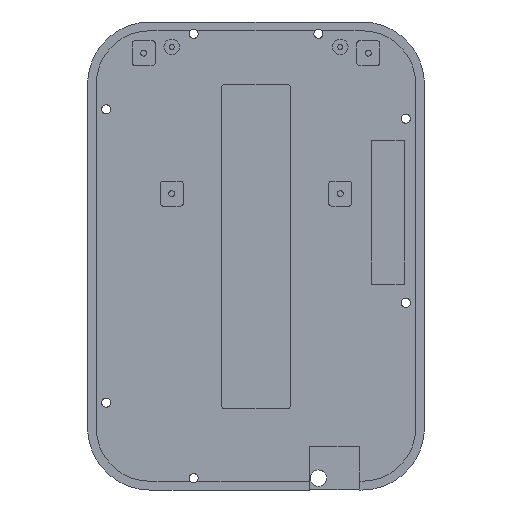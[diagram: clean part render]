
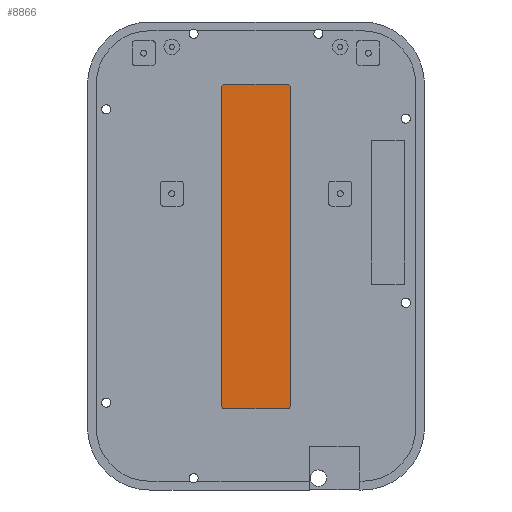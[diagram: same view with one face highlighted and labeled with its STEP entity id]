
A CAD part, front view. The second image highlights one B-rep face of the part: STEP entity #8866.
In plain terms, the highlighted planar face has unit normal (0, -1, 0).
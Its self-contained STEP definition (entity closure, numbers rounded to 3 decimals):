
#3650 = PLANE('',#3651);
#3651 = AXIS2_PLACEMENT_3D('',#3652,#3653,#3654);
#3652 = CARTESIAN_POINT('',(-11.,0.9,-48.));
#3653 = DIRECTION('',(-1.,0.,0.));
#3654 = DIRECTION('',(0.,0.,1.));
#3683 = CYLINDRICAL_SURFACE('',#3684,1.);
#3684 = AXIS2_PLACEMENT_3D('',#3685,#3686,#3687);
#3685 = CARTESIAN_POINT('',(-10.,0.9,54.));
#3686 = DIRECTION('',(0.,1.,0.));
#3687 = DIRECTION('',(1.,0.,0.));
#3711 = PLANE('',#3712);
#3712 = AXIS2_PLACEMENT_3D('',#3713,#3714,#3715);
#3713 = CARTESIAN_POINT('',(-10.,0.9,55.));
#3714 = DIRECTION('',(0.,0.,1.));
#3715 = DIRECTION('',(1.,0.,0.));
#3744 = CYLINDRICAL_SURFACE('',#3745,1.);
#3745 = AXIS2_PLACEMENT_3D('',#3746,#3747,#3748);
#3746 = CARTESIAN_POINT('',(10.,0.9,54.));
#3747 = DIRECTION('',(0.,1.,0.));
#3748 = DIRECTION('',(1.,0.,0.));
#3772 = PLANE('',#3773);
#3773 = AXIS2_PLACEMENT_3D('',#3774,#3775,#3776);
#3774 = CARTESIAN_POINT('',(11.,0.9,-48.));
#3775 = DIRECTION('',(-1.,0.,0.));
#3776 = DIRECTION('',(0.,0.,1.));
#3805 = CYLINDRICAL_SURFACE('',#3806,1.);
#3806 = AXIS2_PLACEMENT_3D('',#3807,#3808,#3809);
#3807 = CARTESIAN_POINT('',(10.,0.9,-48.));
#3808 = DIRECTION('',(0.,1.,0.));
#3809 = DIRECTION('',(1.,0.,0.));
#3833 = PLANE('',#3834);
#3834 = AXIS2_PLACEMENT_3D('',#3835,#3836,#3837);
#3835 = CARTESIAN_POINT('',(-10.,0.9,-49.));
#3836 = DIRECTION('',(0.,0.,1.));
#3837 = DIRECTION('',(1.,0.,0.));
#3864 = CYLINDRICAL_SURFACE('',#3865,1.);
#3865 = AXIS2_PLACEMENT_3D('',#3866,#3867,#3868);
#3866 = CARTESIAN_POINT('',(-10.,0.9,-48.));
#3867 = DIRECTION('',(0.,1.,0.));
#3868 = DIRECTION('',(1.,0.,0.));
#5952 = EDGE_CURVE('',#5953,#5955,#5957,.T.);
#5953 = VERTEX_POINT('',#5954);
#5954 = CARTESIAN_POINT('',(-11.,0.9,-48.));
#5955 = VERTEX_POINT('',#5956);
#5956 = CARTESIAN_POINT('',(-11.,0.9,54.));
#5957 = SURFACE_CURVE('',#5958,(#5962,#5969),.PCURVE_S1.);
#5958 = LINE('',#5959,#5960);
#5959 = CARTESIAN_POINT('',(-11.,0.9,3.));
#5960 = VECTOR('',#5961,1.);
#5961 = DIRECTION('',(0.,0.,1.));
#5962 = PCURVE('',#3650,#5963);
#5963 = DEFINITIONAL_REPRESENTATION('',(#5964),#5968);
#5964 = LINE('',#5965,#5966);
#5965 = CARTESIAN_POINT('',(51.,0.));
#5966 = VECTOR('',#5967,1.);
#5967 = DIRECTION('',(1.,0.));
#5968 = ( GEOMETRIC_REPRESENTATION_CONTEXT(2) 
PARAMETRIC_REPRESENTATION_CONTEXT() REPRESENTATION_CONTEXT('2D SPACE',''
  ) );
#5969 = PCURVE('',#5970,#5975);
#5970 = PLANE('',#5971);
#5971 = AXIS2_PLACEMENT_3D('',#5972,#5973,#5974);
#5972 = CARTESIAN_POINT('',(0.,0.9,3.));
#5973 = DIRECTION('',(0.,-1.,0.));
#5974 = DIRECTION('',(1.,0.,0.));
#5975 = DEFINITIONAL_REPRESENTATION('',(#5976),#5980);
#5976 = LINE('',#5977,#5978);
#5977 = CARTESIAN_POINT('',(-11.,0.));
#5978 = VECTOR('',#5979,1.);
#5979 = DIRECTION('',(0.,1.));
#5980 = ( GEOMETRIC_REPRESENTATION_CONTEXT(2) 
PARAMETRIC_REPRESENTATION_CONTEXT() REPRESENTATION_CONTEXT('2D SPACE',''
  ) );
#6031 = VERTEX_POINT('',#6032);
#6032 = CARTESIAN_POINT('',(-10.,0.9,55.));
#6053 = EDGE_CURVE('',#6031,#5955,#6054,.T.);
#6054 = SURFACE_CURVE('',#6055,(#6060,#6067),.PCURVE_S1.);
#6055 = CIRCLE('',#6056,1.);
#6056 = AXIS2_PLACEMENT_3D('',#6057,#6058,#6059);
#6057 = CARTESIAN_POINT('',(-10.,0.9,54.));
#6058 = DIRECTION('',(0.,-1.,0.));
#6059 = DIRECTION('',(1.,0.,0.));
#6060 = PCURVE('',#3683,#6061);
#6061 = DEFINITIONAL_REPRESENTATION('',(#6062),#6066);
#6062 = LINE('',#6063,#6064);
#6063 = CARTESIAN_POINT('',(6.283,0.));
#6064 = VECTOR('',#6065,1.);
#6065 = DIRECTION('',(-1.,0.));
#6066 = ( GEOMETRIC_REPRESENTATION_CONTEXT(2) 
PARAMETRIC_REPRESENTATION_CONTEXT() REPRESENTATION_CONTEXT('2D SPACE',''
  ) );
#6067 = PCURVE('',#5970,#6068);
#6068 = DEFINITIONAL_REPRESENTATION('',(#6069),#6073);
#6069 = CIRCLE('',#6070,1.);
#6070 = AXIS2_PLACEMENT_2D('',#6071,#6072);
#6071 = CARTESIAN_POINT('',(-10.,51.));
#6072 = DIRECTION('',(1.,0.));
#6073 = ( GEOMETRIC_REPRESENTATION_CONTEXT(2) 
PARAMETRIC_REPRESENTATION_CONTEXT() REPRESENTATION_CONTEXT('2D SPACE',''
  ) );
#6079 = VERTEX_POINT('',#6080);
#6080 = CARTESIAN_POINT('',(-10.,0.9,-49.));
#6103 = EDGE_CURVE('',#5953,#6079,#6104,.T.);
#6104 = SURFACE_CURVE('',#6105,(#6110,#6117),.PCURVE_S1.);
#6105 = CIRCLE('',#6106,1.);
#6106 = AXIS2_PLACEMENT_3D('',#6107,#6108,#6109);
#6107 = CARTESIAN_POINT('',(-10.,0.9,-48.));
#6108 = DIRECTION('',(0.,-1.,0.));
#6109 = DIRECTION('',(1.,0.,0.));
#6110 = PCURVE('',#3864,#6111);
#6111 = DEFINITIONAL_REPRESENTATION('',(#6112),#6116);
#6112 = LINE('',#6113,#6114);
#6113 = CARTESIAN_POINT('',(6.283,0.));
#6114 = VECTOR('',#6115,1.);
#6115 = DIRECTION('',(-1.,0.));
#6116 = ( GEOMETRIC_REPRESENTATION_CONTEXT(2) 
PARAMETRIC_REPRESENTATION_CONTEXT() REPRESENTATION_CONTEXT('2D SPACE',''
  ) );
#6117 = PCURVE('',#5970,#6118);
#6118 = DEFINITIONAL_REPRESENTATION('',(#6119),#6123);
#6119 = CIRCLE('',#6120,1.);
#6120 = AXIS2_PLACEMENT_2D('',#6121,#6122);
#6121 = CARTESIAN_POINT('',(-10.,-51.));
#6122 = DIRECTION('',(1.,0.));
#6123 = ( GEOMETRIC_REPRESENTATION_CONTEXT(2) 
PARAMETRIC_REPRESENTATION_CONTEXT() REPRESENTATION_CONTEXT('2D SPACE',''
  ) );
#6128 = EDGE_CURVE('',#6031,#6129,#6131,.T.);
#6129 = VERTEX_POINT('',#6130);
#6130 = CARTESIAN_POINT('',(10.,0.9,55.));
#6131 = SURFACE_CURVE('',#6132,(#6136,#6143),.PCURVE_S1.);
#6132 = LINE('',#6133,#6134);
#6133 = CARTESIAN_POINT('',(0.,0.9,55.));
#6134 = VECTOR('',#6135,1.);
#6135 = DIRECTION('',(1.,0.,0.));
#6136 = PCURVE('',#3711,#6137);
#6137 = DEFINITIONAL_REPRESENTATION('',(#6138),#6142);
#6138 = LINE('',#6139,#6140);
#6139 = CARTESIAN_POINT('',(10.,0.));
#6140 = VECTOR('',#6141,1.);
#6141 = DIRECTION('',(1.,0.));
#6142 = ( GEOMETRIC_REPRESENTATION_CONTEXT(2) 
PARAMETRIC_REPRESENTATION_CONTEXT() REPRESENTATION_CONTEXT('2D SPACE',''
  ) );
#6143 = PCURVE('',#5970,#6144);
#6144 = DEFINITIONAL_REPRESENTATION('',(#6145),#6149);
#6145 = LINE('',#6146,#6147);
#6146 = CARTESIAN_POINT('',(0.,52.));
#6147 = VECTOR('',#6148,1.);
#6148 = DIRECTION('',(1.,0.));
#6149 = ( GEOMETRIC_REPRESENTATION_CONTEXT(2) 
PARAMETRIC_REPRESENTATION_CONTEXT() REPRESENTATION_CONTEXT('2D SPACE',''
  ) );
#6177 = EDGE_CURVE('',#6079,#6178,#6180,.T.);
#6178 = VERTEX_POINT('',#6179);
#6179 = CARTESIAN_POINT('',(10.,0.9,-49.));
#6180 = SURFACE_CURVE('',#6181,(#6185,#6192),.PCURVE_S1.);
#6181 = LINE('',#6182,#6183);
#6182 = CARTESIAN_POINT('',(0.,0.9,-49.));
#6183 = VECTOR('',#6184,1.);
#6184 = DIRECTION('',(1.,0.,0.));
#6185 = PCURVE('',#3833,#6186);
#6186 = DEFINITIONAL_REPRESENTATION('',(#6187),#6191);
#6187 = LINE('',#6188,#6189);
#6188 = CARTESIAN_POINT('',(10.,0.));
#6189 = VECTOR('',#6190,1.);
#6190 = DIRECTION('',(1.,0.));
#6191 = ( GEOMETRIC_REPRESENTATION_CONTEXT(2) 
PARAMETRIC_REPRESENTATION_CONTEXT() REPRESENTATION_CONTEXT('2D SPACE',''
  ) );
#6192 = PCURVE('',#5970,#6193);
#6193 = DEFINITIONAL_REPRESENTATION('',(#6194),#6198);
#6194 = LINE('',#6195,#6196);
#6195 = CARTESIAN_POINT('',(0.,-52.));
#6196 = VECTOR('',#6197,1.);
#6197 = DIRECTION('',(1.,0.));
#6198 = ( GEOMETRIC_REPRESENTATION_CONTEXT(2) 
PARAMETRIC_REPRESENTATION_CONTEXT() REPRESENTATION_CONTEXT('2D SPACE',''
  ) );
#6229 = VERTEX_POINT('',#6230);
#6230 = CARTESIAN_POINT('',(11.,0.9,54.));
#6251 = EDGE_CURVE('',#6229,#6129,#6252,.T.);
#6252 = SURFACE_CURVE('',#6253,(#6258,#6265),.PCURVE_S1.);
#6253 = CIRCLE('',#6254,1.);
#6254 = AXIS2_PLACEMENT_3D('',#6255,#6256,#6257);
#6255 = CARTESIAN_POINT('',(10.,0.9,54.));
#6256 = DIRECTION('',(0.,-1.,0.));
#6257 = DIRECTION('',(1.,0.,0.));
#6258 = PCURVE('',#3744,#6259);
#6259 = DEFINITIONAL_REPRESENTATION('',(#6260),#6264);
#6260 = LINE('',#6261,#6262);
#6261 = CARTESIAN_POINT('',(6.283,0.));
#6262 = VECTOR('',#6263,1.);
#6263 = DIRECTION('',(-1.,0.));
#6264 = ( GEOMETRIC_REPRESENTATION_CONTEXT(2) 
PARAMETRIC_REPRESENTATION_CONTEXT() REPRESENTATION_CONTEXT('2D SPACE',''
  ) );
#6265 = PCURVE('',#5970,#6266);
#6266 = DEFINITIONAL_REPRESENTATION('',(#6267),#6271);
#6267 = CIRCLE('',#6268,1.);
#6268 = AXIS2_PLACEMENT_2D('',#6269,#6270);
#6269 = CARTESIAN_POINT('',(10.,51.));
#6270 = DIRECTION('',(1.,0.));
#6271 = ( GEOMETRIC_REPRESENTATION_CONTEXT(2) 
PARAMETRIC_REPRESENTATION_CONTEXT() REPRESENTATION_CONTEXT('2D SPACE',''
  ) );
#6277 = VERTEX_POINT('',#6278);
#6278 = CARTESIAN_POINT('',(11.,0.9,-48.));
#6301 = EDGE_CURVE('',#6178,#6277,#6302,.T.);
#6302 = SURFACE_CURVE('',#6303,(#6308,#6315),.PCURVE_S1.);
#6303 = CIRCLE('',#6304,1.);
#6304 = AXIS2_PLACEMENT_3D('',#6305,#6306,#6307);
#6305 = CARTESIAN_POINT('',(10.,0.9,-48.));
#6306 = DIRECTION('',(0.,-1.,0.));
#6307 = DIRECTION('',(1.,0.,0.));
#6308 = PCURVE('',#3805,#6309);
#6309 = DEFINITIONAL_REPRESENTATION('',(#6310),#6314);
#6310 = LINE('',#6311,#6312);
#6311 = CARTESIAN_POINT('',(6.283,0.));
#6312 = VECTOR('',#6313,1.);
#6313 = DIRECTION('',(-1.,0.));
#6314 = ( GEOMETRIC_REPRESENTATION_CONTEXT(2) 
PARAMETRIC_REPRESENTATION_CONTEXT() REPRESENTATION_CONTEXT('2D SPACE',''
  ) );
#6315 = PCURVE('',#5970,#6316);
#6316 = DEFINITIONAL_REPRESENTATION('',(#6317),#6321);
#6317 = CIRCLE('',#6318,1.);
#6318 = AXIS2_PLACEMENT_2D('',#6319,#6320);
#6319 = CARTESIAN_POINT('',(10.,-51.));
#6320 = DIRECTION('',(1.,0.));
#6321 = ( GEOMETRIC_REPRESENTATION_CONTEXT(2) 
PARAMETRIC_REPRESENTATION_CONTEXT() REPRESENTATION_CONTEXT('2D SPACE',''
  ) );
#6326 = EDGE_CURVE('',#6277,#6229,#6327,.T.);
#6327 = SURFACE_CURVE('',#6328,(#6332,#6339),.PCURVE_S1.);
#6328 = LINE('',#6329,#6330);
#6329 = CARTESIAN_POINT('',(11.,0.9,3.));
#6330 = VECTOR('',#6331,1.);
#6331 = DIRECTION('',(0.,0.,1.));
#6332 = PCURVE('',#3772,#6333);
#6333 = DEFINITIONAL_REPRESENTATION('',(#6334),#6338);
#6334 = LINE('',#6335,#6336);
#6335 = CARTESIAN_POINT('',(51.,0.));
#6336 = VECTOR('',#6337,1.);
#6337 = DIRECTION('',(1.,0.));
#6338 = ( GEOMETRIC_REPRESENTATION_CONTEXT(2) 
PARAMETRIC_REPRESENTATION_CONTEXT() REPRESENTATION_CONTEXT('2D SPACE',''
  ) );
#6339 = PCURVE('',#5970,#6340);
#6340 = DEFINITIONAL_REPRESENTATION('',(#6341),#6345);
#6341 = LINE('',#6342,#6343);
#6342 = CARTESIAN_POINT('',(11.,0.));
#6343 = VECTOR('',#6344,1.);
#6344 = DIRECTION('',(0.,1.));
#6345 = ( GEOMETRIC_REPRESENTATION_CONTEXT(2) 
PARAMETRIC_REPRESENTATION_CONTEXT() REPRESENTATION_CONTEXT('2D SPACE',''
  ) );
#8866 = ADVANCED_FACE('',(#8867),#5970,.T.);
#8867 = FACE_BOUND('',#8868,.T.);
#8868 = EDGE_LOOP('',(#8869,#8870,#8871,#8872,#8873,#8874,#8875,#8876));
#8869 = ORIENTED_EDGE('',*,*,#5952,.F.);
#8870 = ORIENTED_EDGE('',*,*,#6103,.T.);
#8871 = ORIENTED_EDGE('',*,*,#6177,.T.);
#8872 = ORIENTED_EDGE('',*,*,#6301,.T.);
#8873 = ORIENTED_EDGE('',*,*,#6326,.T.);
#8874 = ORIENTED_EDGE('',*,*,#6251,.T.);
#8875 = ORIENTED_EDGE('',*,*,#6128,.F.);
#8876 = ORIENTED_EDGE('',*,*,#6053,.T.);
